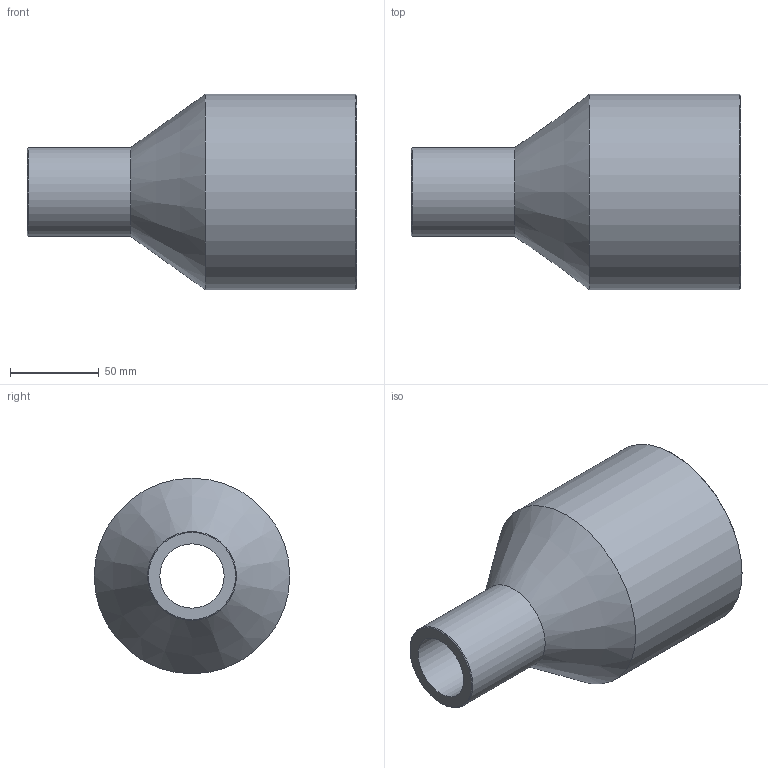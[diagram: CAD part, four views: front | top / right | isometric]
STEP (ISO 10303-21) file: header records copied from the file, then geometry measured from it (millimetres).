
FILE_DESCRIPTION(/* description */ ('Unknown'),/* implementation_level */ '2;1');
FILE_NAME(/* name */ 'RP110050H',/* time_stamp */ '2024-01-10T11:19:24+01:00',/* author */ ('Unknown'),/* organization */ ('Unknown'),/* preprocessor_version */ 'ST-DEVELOPER v18.102',/* originating_system */ 'Solid Edge',/* authorisation */ 'Unknown');
FILE_SCHEMA (('AUTOMOTIVE_DESIGN {1 0 10303 214 3 1 1}'));
Length unit declared in the file: millimetre
Products named in the file (1): RP110050H
Bounding box: 185 x 110 x 110 mm (x, y, z)
Volume: 577850.5 mm3; surface area: 92000.5 mm2
Topology: 1 solids, 1 shells, 10 faces, 19 edges, 11 vertices
Faces by surface type: cylinder 4, cone 4, plane 2
Full cylindrical faces by diameter (mm): 36.2 x1, 50 x1, 79.8 x1, 110 x1
Entity records: 238 total; most frequent: DIRECTION 42, CARTESIAN_POINT 31, AXIS2_PLACEMENT_3D 21, ORIENTED_EDGE 20, EDGE_LOOP 20, FACE_BOUND 20, EDGE_CURVE 10, VERTEX_POINT 10
